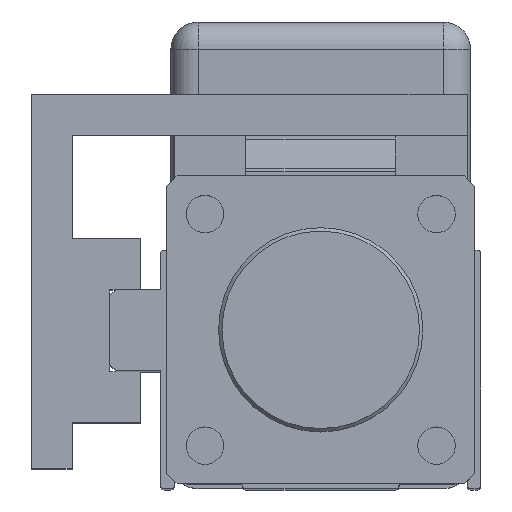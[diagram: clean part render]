
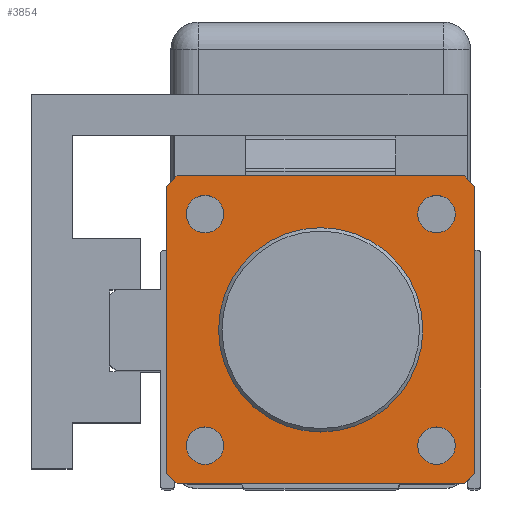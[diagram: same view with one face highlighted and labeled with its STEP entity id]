
A CAD part, top view. The second image highlights one B-rep face of the part: STEP entity #3854.
In plain terms, the highlighted planar face has unit normal (0, 0, 1).
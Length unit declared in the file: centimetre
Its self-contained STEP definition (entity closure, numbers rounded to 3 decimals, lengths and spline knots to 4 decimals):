
#468=VECTOR('',#4721,1.);
#471=VECTOR('',#4725,1.);
#473=VECTOR('',#4728,1.);
#476=VECTOR('',#4732,1.);
#479=VECTOR('',#4736,1.);
#482=VECTOR('',#4740,1.);
#486=VECTOR('',#4745,1.);
#489=VECTOR('',#4749,1.);
#776=LINE('',#5866,#468);
#779=LINE('',#5872,#471);
#781=LINE('',#5876,#473);
#784=LINE('',#5882,#476);
#787=LINE('',#5887,#479);
#790=LINE('',#5894,#482);
#794=LINE('',#5902,#486);
#797=LINE('',#5907,#489);
#1005=PLANE('',#4138);
#1206=VERTEX_POINT('',#5808);
#1233=VERTEX_POINT('',#5867);
#1234=VERTEX_POINT('',#5868);
#1235=VERTEX_POINT('',#5873);
#1236=VERTEX_POINT('',#5877);
#1238=VERTEX_POINT('',#5883);
#1239=VERTEX_POINT('',#5888);
#1242=VERTEX_POINT('',#5895);
#1245=VERTEX_POINT('',#5903);
#1246=VERTEX_POINT('',#5910);
#1248=VERTEX_POINT('',#5915);
#1249=VERTEX_POINT('',#5918);
#1250=VERTEX_POINT('',#5921);
#1472=CIRCLE('',#4106,1.5);
#1485=CIRCLE('',#4130,0.275);
#1487=CIRCLE('',#4133,0.275);
#1488=CIRCLE('',#4135,0.275);
#1489=CIRCLE('',#4137,0.275);
#1777=EDGE_CURVE('',#1206,#1206,#1472,.T.);
#1806=EDGE_CURVE('',#1233,#1234,#776,.T.);
#1809=EDGE_CURVE('',#1234,#1235,#779,.T.);
#1811=EDGE_CURVE('',#1235,#1236,#781,.T.);
#1814=EDGE_CURVE('',#1236,#1238,#784,.T.);
#1817=EDGE_CURVE('',#1238,#1239,#787,.T.);
#1821=EDGE_CURVE('',#1239,#1242,#790,.T.);
#1825=EDGE_CURVE('',#1242,#1245,#794,.T.);
#1828=EDGE_CURVE('',#1245,#1233,#797,.T.);
#1829=EDGE_CURVE('',#1246,#1246,#1485,.T.);
#1831=EDGE_CURVE('',#1248,#1248,#1487,.T.);
#1832=EDGE_CURVE('',#1249,#1249,#1488,.T.);
#1833=EDGE_CURVE('',#1250,#1250,#1489,.T.);
#2533=ORIENTED_EDGE('',*,*,#1777,.T.);
#2534=ORIENTED_EDGE('',*,*,#1833,.F.);
#2535=ORIENTED_EDGE('',*,*,#1832,.F.);
#2536=ORIENTED_EDGE('',*,*,#1831,.F.);
#2537=ORIENTED_EDGE('',*,*,#1829,.F.);
#2538=ORIENTED_EDGE('',*,*,#1806,.F.);
#2539=ORIENTED_EDGE('',*,*,#1828,.F.);
#2540=ORIENTED_EDGE('',*,*,#1825,.F.);
#2541=ORIENTED_EDGE('',*,*,#1821,.F.);
#2542=ORIENTED_EDGE('',*,*,#1817,.F.);
#2543=ORIENTED_EDGE('',*,*,#1814,.F.);
#2544=ORIENTED_EDGE('',*,*,#1811,.F.);
#2545=ORIENTED_EDGE('',*,*,#1809,.F.);
#3287=EDGE_LOOP('',(#2533));
#3288=EDGE_LOOP('',(#2534));
#3289=EDGE_LOOP('',(#2535));
#3290=EDGE_LOOP('',(#2536));
#3291=EDGE_LOOP('',(#2537));
#3292=EDGE_LOOP('',(#2538,#2539,#2540,#2541,#2542,#2543,#2544,#2545));
#3596=FACE_BOUND('',#3287,.T.);
#3597=FACE_BOUND('',#3288,.T.);
#3598=FACE_BOUND('',#3289,.T.);
#3599=FACE_BOUND('',#3290,.T.);
#3600=FACE_BOUND('',#3291,.T.);
#3601=FACE_BOUND('',#3292,.T.);
#3854=ADVANCED_FACE('',(#3596,#3597,#3598,#3599,#3600,#3601),#1005,.T.);
#4106=AXIS2_PLACEMENT_3D('',#5807,#4676,#4677);
#4130=AXIS2_PLACEMENT_3D('',#5909,#4752,#4753);
#4133=AXIS2_PLACEMENT_3D('',#5914,#4758,#4759);
#4135=AXIS2_PLACEMENT_3D('',#5917,#4762,#4763);
#4137=AXIS2_PLACEMENT_3D('',#5920,#4766,#4767);
#4138=AXIS2_PLACEMENT_3D('',#5922,#4768,$);
#4676=DIRECTION('',(0.,0.,-1.));
#4677=DIRECTION('',(1.5,0.,0.));
#4721=DIRECTION('',(1.,0.,0.));
#4725=DIRECTION('',(0.707,-0.707,0.));
#4728=DIRECTION('',(0.,-1.,0.));
#4732=DIRECTION('',(-0.707,-0.707,0.));
#4736=DIRECTION('',(-1.,0.,0.));
#4740=DIRECTION('',(-0.707,0.707,0.));
#4745=DIRECTION('',(0.,1.,0.));
#4749=DIRECTION('',(0.707,0.707,0.));
#4752=DIRECTION('',(0.,0.,1.));
#4753=DIRECTION('',(0.275,0.,0.));
#4758=DIRECTION('',(0.,0.,1.));
#4759=DIRECTION('',(0.275,0.,0.));
#4762=DIRECTION('',(0.,0.,1.));
#4763=DIRECTION('',(0.275,0.,0.));
#4766=DIRECTION('',(0.,0.,1.));
#4767=DIRECTION('',(0.275,0.,0.));
#4768=DIRECTION('',(0.,0.,1.));
#5807=CARTESIAN_POINT('',(0.,0.,13.));
#5808=CARTESIAN_POINT('',(1.5,0.,13.));
#5866=CARTESIAN_POINT('',(2.11,2.26,13.));
#5867=CARTESIAN_POINT('',(-2.11,2.26,13.));
#5868=CARTESIAN_POINT('',(2.11,2.26,13.));
#5872=CARTESIAN_POINT('',(2.26,2.11,13.));
#5873=CARTESIAN_POINT('',(2.26,2.11,13.));
#5876=CARTESIAN_POINT('',(2.26,-2.11,13.));
#5877=CARTESIAN_POINT('',(2.26,-2.11,13.));
#5882=CARTESIAN_POINT('',(2.11,-2.26,13.));
#5883=CARTESIAN_POINT('',(2.11,-2.26,13.));
#5887=CARTESIAN_POINT('',(-2.11,-2.26,13.));
#5888=CARTESIAN_POINT('',(-2.11,-2.26,13.));
#5894=CARTESIAN_POINT('',(-2.26,-2.11,13.));
#5895=CARTESIAN_POINT('',(-2.26,-2.11,13.));
#5902=CARTESIAN_POINT('',(-2.26,2.11,13.));
#5903=CARTESIAN_POINT('',(-2.26,2.11,13.));
#5907=CARTESIAN_POINT('',(-2.11,2.26,13.));
#5909=CARTESIAN_POINT('',(-1.7,-1.7,13.));
#5910=CARTESIAN_POINT('',(-1.425,-1.7,13.));
#5914=CARTESIAN_POINT('',(-1.7,1.7,13.));
#5915=CARTESIAN_POINT('',(-1.425,1.7,13.));
#5917=CARTESIAN_POINT('',(1.7,1.7,13.));
#5918=CARTESIAN_POINT('',(1.975,1.7,13.));
#5920=CARTESIAN_POINT('',(1.7,-1.7,13.));
#5921=CARTESIAN_POINT('',(1.975,-1.7,13.));
#5922=CARTESIAN_POINT('',(0.,0.,13.));
